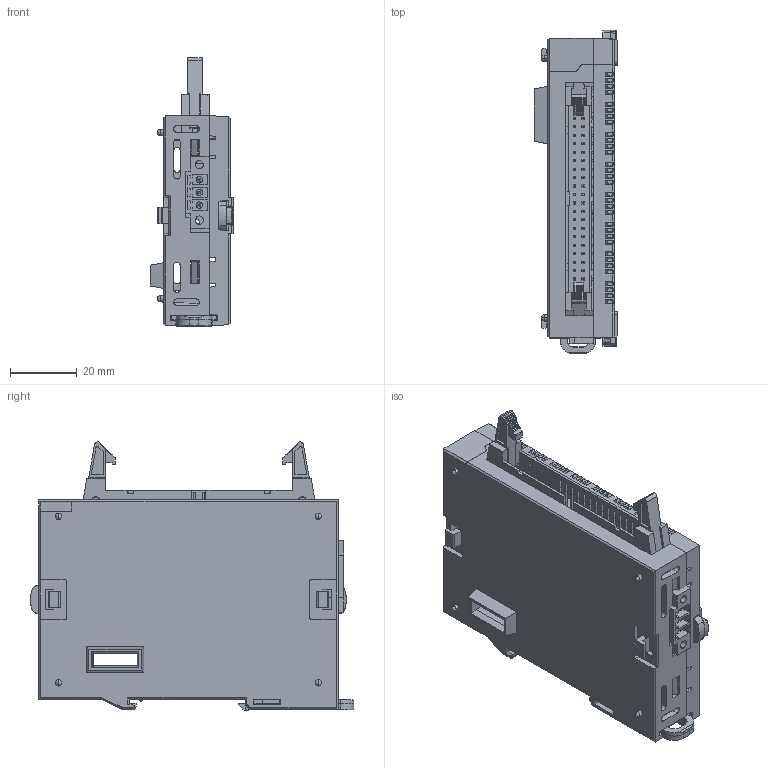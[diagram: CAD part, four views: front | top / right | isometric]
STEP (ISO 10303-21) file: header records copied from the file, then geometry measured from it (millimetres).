
FILE_DESCRIPTION (( 'STEP AP203' ), '1' );
FILE_NAME ('3.STEP', '2017-12-01T10:36:43', ( '' ), ( '' ), 'SwSTEP 2.0', 'SolidWorks 2017', '' );
FILE_SCHEMA (( 'CONFIG_CONTROL_DESIGN' ));
Length unit declared in the file: millimetre
Products named in the file (9): 3; G; B; A; E; H; C; D; F
Assembly tree (10 placements, depth 2):
  3
    A
    B
    C  x2
    D  x2
    E
    F
    G
    H
Bounding box: 25 x 97.2 x 80.6 mm (x, y, z)
Volume: 34562.5 mm3; surface area: 51597.6 mm2
Topology: 12 solids, 12 shells, 3607 faces, 9976 edges, 6438 vertices
Faces by surface type: plane 3193, cylinder 299, cone 58, bspline 31, torus 14, sphere 12
Entity records: 100547 total; most frequent: CARTESIAN_POINT 18722, ORIENTED_EDGE 17516, DIRECTION 15432, EDGE_CURVE 8758, VECTOR 8010, LINE 8010, VERTEX_POINT 5656, AXIS2_PLACEMENT_3D 3711
